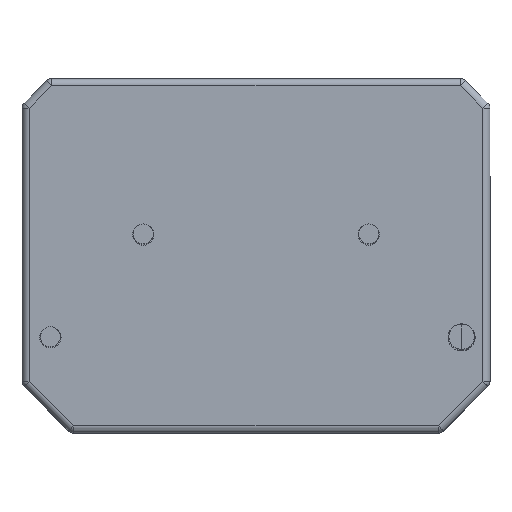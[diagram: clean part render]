
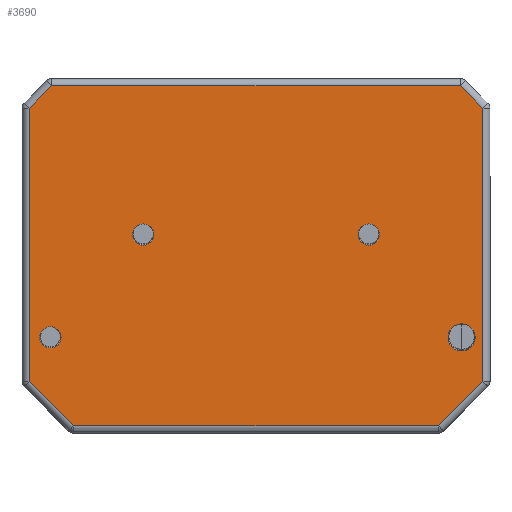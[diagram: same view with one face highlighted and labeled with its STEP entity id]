
A CAD part, top view. The second image highlights one B-rep face of the part: STEP entity #3690.
In plain terms, the highlighted planar face has unit normal (0, 0, 1).
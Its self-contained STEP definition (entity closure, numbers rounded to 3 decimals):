
#3 = VERTEX_POINT ( 'NONE', #4067 ) ;
#115 = CARTESIAN_POINT ( 'NONE',  ( -14.4, 26.8, 1. ) ) ;
#136 = FACE_OUTER_BOUND ( 'NONE', #297, .T. ) ;
#211 = DIRECTION ( 'NONE',  ( 0., 1., 0. ) ) ;
#213 = EDGE_CURVE ( 'NONE', #5137, #3, #2060, .T. ) ;
#297 = EDGE_LOOP ( 'NONE', ( #5254, #5443, #3378, #7904, #4692, #9486, #1400, #6706 ) ) ;
#351 = EDGE_CURVE ( 'NONE', #7415, #1528, #2502, .T. ) ;
#372 = LINE ( 'NONE', #5571, #5107 ) ;
#512 = CARTESIAN_POINT ( 'NONE',  ( 32., 6.076, 1. ) ) ;
#513 = EDGE_CURVE ( 'NONE', #7416, #11319, #3457, .T. ) ;
#564 = ORIENTED_EDGE ( 'NONE', *, *, #8007, .F. ) ;
#743 = DIRECTION ( 'NONE',  ( 1., 0., 0. ) ) ;
#805 = CIRCLE ( 'NONE', #11612, 1.5 ) ;
#829 = CARTESIAN_POINT ( 'NONE',  ( 0., 0., 1. ) ) ;
#950 = EDGE_CURVE ( 'NONE', #7591, #1123, #3882, .T. ) ;
#1123 = VERTEX_POINT ( 'NONE', #115 ) ;
#1200 = EDGE_CURVE ( 'NONE', #3, #8147, #8505, .T. ) ;
#1241 = CARTESIAN_POINT ( 'NONE',  ( -29.238, 47.8, 1. ) ) ;
#1400 = ORIENTED_EDGE ( 'NONE', *, *, #2907, .T. ) ;
#1528 = VERTEX_POINT ( 'NONE', #2818 ) ;
#1581 = CARTESIAN_POINT ( 'NONE',  ( 15.9, 26.8, 1. ) ) ;
#1661 = CARTESIAN_POINT ( 'NONE',  ( 28.824, 47.8, 1. ) ) ;
#1709 = EDGE_LOOP ( 'NONE', ( #10503, #7883 ) ) ;
#1888 = AXIS2_PLACEMENT_3D ( 'NONE', #9834, #4466, #10730 ) ;
#1908 = CARTESIAN_POINT ( 'NONE',  ( -32.293, 44.331, 1. ) ) ;
#1916 = CARTESIAN_POINT ( 'NONE',  ( -25.724, -0.2, 1. ) ) ;
#1942 = PLANE ( 'NONE',  #6334 ) ;
#1977 = EDGE_LOOP ( 'NONE', ( #9494, #4593 ) ) ;
#2020 = DIRECTION ( 'NONE',  ( 0., 0., 1. ) ) ;
#2024 = AXIS2_PLACEMENT_3D ( 'NONE', #9400, #2020, #9694 ) ;
#2060 = LINE ( 'NONE', #1241, #8652 ) ;
#2152 = DIRECTION ( 'NONE',  ( -0.707, 0.707, 0. ) ) ;
#2232 = FACE_BOUND ( 'NONE', #4429, .T. ) ;
#2410 = EDGE_CURVE ( 'NONE', #9934, #11513, #10951, .T. ) ;
#2483 = DIRECTION ( 'NONE',  ( 1., 0., 0. ) ) ;
#2502 = CIRCLE ( 'NONE', #4442, 1.9 ) ;
#2605 = CIRCLE ( 'NONE', #11264, 1.5 ) ;
#2803 = VERTEX_POINT ( 'NONE', #4053 ) ;
#2818 = CARTESIAN_POINT ( 'NONE',  ( 30.9, 12.3, 1. ) ) ;
#2850 = DIRECTION ( 'NONE',  ( -1., 0., 0. ) ) ;
#2907 = EDGE_CURVE ( 'NONE', #8147, #7416, #3232, .T. ) ;
#2995 = DIRECTION ( 'NONE',  ( 0., 0., 1. ) ) ;
#3061 = CARTESIAN_POINT ( 'NONE',  ( -27.5, 12.3, 1. ) ) ;
#3089 = CARTESIAN_POINT ( 'NONE',  ( 14.4, 26.8, 1. ) ) ;
#3171 = EDGE_LOOP ( 'NONE', ( #564, #6529 ) ) ;
#3175 = VECTOR ( 'NONE', #5128, 1000. ) ;
#3232 = LINE ( 'NONE', #9962, #10102 ) ;
#3378 = ORIENTED_EDGE ( 'NONE', *, *, #6146, .T. ) ;
#3433 = CARTESIAN_POINT ( 'NONE',  ( 29., 12.3, 1. ) ) ;
#3444 = DIRECTION ( 'NONE',  ( 1., 0., 0. ) ) ;
#3447 = VECTOR ( 'NONE', #3444, 1000. ) ;
#3457 = LINE ( 'NONE', #5661, #3175 ) ;
#3564 = CARTESIAN_POINT ( 'NONE',  ( 32.293, 6.369, 1. ) ) ;
#3579 = DIRECTION ( 'NONE',  ( 1., 0., 0. ) ) ;
#3690 = ADVANCED_FACE ( 'NONE', ( #9369, #6990, #4606, #2232, #136 ), #1942, .T. ) ;
#3699 = CIRCLE ( 'NONE', #4727, 1.9 ) ;
#3733 = VECTOR ( 'NONE', #2152, 1000. ) ;
#3742 = VECTOR ( 'NONE', #4004, 1000. ) ;
#3845 = CARTESIAN_POINT ( 'NONE',  ( -32., 44.624, 1. ) ) ;
#3854 = CARTESIAN_POINT ( 'NONE',  ( 17.4, 26.8, 1. ) ) ;
#3882 = CIRCLE ( 'NONE', #6229, 1.5 ) ;
#4004 = DIRECTION ( 'NONE',  ( -0.707, -0.707, 0. ) ) ;
#4006 = VERTEX_POINT ( 'NONE', #11041 ) ;
#4038 = DIRECTION ( 'NONE',  ( 0., 0., 1. ) ) ;
#4053 = CARTESIAN_POINT ( 'NONE',  ( -30.5, 12.3, 1. ) ) ;
#4067 = CARTESIAN_POINT ( 'NONE',  ( -28.824, 47.8, 1. ) ) ;
#4201 = DIRECTION ( 'NONE',  ( 1., 0., 0. ) ) ;
#4206 = CARTESIAN_POINT ( 'NONE',  ( -32., 6.076, 1. ) ) ;
#4216 = CARTESIAN_POINT ( 'NONE',  ( -17.4, 26.8, 1. ) ) ;
#4222 = ORIENTED_EDGE ( 'NONE', *, *, #351, .F. ) ;
#4429 = EDGE_LOOP ( 'NONE', ( #8416, #4222 ) ) ;
#4442 = AXIS2_PLACEMENT_3D ( 'NONE', #3433, #4038, #4201 ) ;
#4466 = DIRECTION ( 'NONE',  ( 0., 0., 1. ) ) ;
#4564 = DIRECTION ( 'NONE',  ( 0.707, 0.707, 0. ) ) ;
#4568 = DIRECTION ( 'NONE',  ( 1., 0., 0. ) ) ;
#4593 = ORIENTED_EDGE ( 'NONE', *, *, #6419, .F. ) ;
#4600 = CARTESIAN_POINT ( 'NONE',  ( 27.1, 12.3, 1. ) ) ;
#4606 = FACE_BOUND ( 'NONE', #1977, .T. ) ;
#4692 = ORIENTED_EDGE ( 'NONE', *, *, #213, .T. ) ;
#4693 = CIRCLE ( 'NONE', #1888, 1.5 ) ;
#4727 = AXIS2_PLACEMENT_3D ( 'NONE', #11430, #6081, #743 ) ;
#5071 = CIRCLE ( 'NONE', #2024, 1.5 ) ;
#5107 = VECTOR ( 'NONE', #211, 1000. ) ;
#5128 = DIRECTION ( 'NONE',  ( 0.707, -0.707, 0. ) ) ;
#5137 = VERTEX_POINT ( 'NONE', #1661 ) ;
#5143 = DIRECTION ( 'NONE',  ( 0., 0., 1. ) ) ;
#5254 = ORIENTED_EDGE ( 'NONE', *, *, #9131, .T. ) ;
#5443 = ORIENTED_EDGE ( 'NONE', *, *, #7900, .T. ) ;
#5486 = DIRECTION ( 'NONE',  ( 0., 0., 1. ) ) ;
#5571 = CARTESIAN_POINT ( 'NONE',  ( 32., 45.038, 1. ) ) ;
#5661 = CARTESIAN_POINT ( 'NONE',  ( -25.431, -0.493, 1. ) ) ;
#5836 = EDGE_CURVE ( 'NONE', #10170, #5137, #10603, .T. ) ;
#6081 = DIRECTION ( 'NONE',  ( 0., 0., 1. ) ) ;
#6146 = EDGE_CURVE ( 'NONE', #11581, #10170, #372, .T. ) ;
#6229 = AXIS2_PLACEMENT_3D ( 'NONE', #9208, #9158, #9267 ) ;
#6276 = VERTEX_POINT ( 'NONE', #3061 ) ;
#6334 = AXIS2_PLACEMENT_3D ( 'NONE', #829, #2995, #8748 ) ;
#6383 = DIRECTION ( 'NONE',  ( 0., -1., 0. ) ) ;
#6419 = EDGE_CURVE ( 'NONE', #11513, #9934, #805, .T. ) ;
#6529 = ORIENTED_EDGE ( 'NONE', *, *, #9179, .F. ) ;
#6706 = ORIENTED_EDGE ( 'NONE', *, *, #513, .T. ) ;
#6938 = EDGE_CURVE ( 'NONE', #1123, #7591, #2605, .T. ) ;
#6990 = FACE_BOUND ( 'NONE', #1709, .T. ) ;
#7415 = VERTEX_POINT ( 'NONE', #4600 ) ;
#7416 = VERTEX_POINT ( 'NONE', #4206 ) ;
#7591 = VERTEX_POINT ( 'NONE', #4216 ) ;
#7678 = LINE ( 'NONE', #9515, #3447 ) ;
#7875 = DIRECTION ( 'NONE',  ( 0., 0., 1. ) ) ;
#7883 = ORIENTED_EDGE ( 'NONE', *, *, #950, .F. ) ;
#7900 = EDGE_CURVE ( 'NONE', #4006, #11581, #8874, .T. ) ;
#7904 = ORIENTED_EDGE ( 'NONE', *, *, #5836, .T. ) ;
#8005 = CARTESIAN_POINT ( 'NONE',  ( 32., 44.624, 1. ) ) ;
#8007 = EDGE_CURVE ( 'NONE', #6276, #2803, #5071, .T. ) ;
#8147 = VERTEX_POINT ( 'NONE', #3845 ) ;
#8416 = ORIENTED_EDGE ( 'NONE', *, *, #10566, .F. ) ;
#8505 = LINE ( 'NONE', #1908, #3742 ) ;
#8652 = VECTOR ( 'NONE', #2850, 1000. ) ;
#8748 = DIRECTION ( 'NONE',  ( 1., 0., 0. ) ) ;
#8874 = LINE ( 'NONE', #3564, #10699 ) ;
#8935 = AXIS2_PLACEMENT_3D ( 'NONE', #10843, #5486, #4568 ) ;
#9131 = EDGE_CURVE ( 'NONE', #11319, #4006, #7678, .T. ) ;
#9158 = DIRECTION ( 'NONE',  ( 0., 0., 1. ) ) ;
#9179 = EDGE_CURVE ( 'NONE', #2803, #6276, #4693, .T. ) ;
#9208 = CARTESIAN_POINT ( 'NONE',  ( -15.9, 26.8, 1. ) ) ;
#9267 = DIRECTION ( 'NONE',  ( 1., 0., 0. ) ) ;
#9369 = FACE_BOUND ( 'NONE', #3171, .T. ) ;
#9400 = CARTESIAN_POINT ( 'NONE',  ( -29., 12.3, 1. ) ) ;
#9486 = ORIENTED_EDGE ( 'NONE', *, *, #1200, .T. ) ;
#9494 = ORIENTED_EDGE ( 'NONE', *, *, #2410, .F. ) ;
#9515 = CARTESIAN_POINT ( 'NONE',  ( 26.138, -0.2, 1. ) ) ;
#9694 = DIRECTION ( 'NONE',  ( 1., 0., 0. ) ) ;
#9834 = CARTESIAN_POINT ( 'NONE',  ( -29., 12.3, 1. ) ) ;
#9934 = VERTEX_POINT ( 'NONE', #3854 ) ;
#9962 = CARTESIAN_POINT ( 'NONE',  ( -32., 5.662, 1. ) ) ;
#10102 = VECTOR ( 'NONE', #6383, 1000. ) ;
#10170 = VERTEX_POINT ( 'NONE', #8005 ) ;
#10490 = CARTESIAN_POINT ( 'NONE',  ( -15.9, 26.8, 1. ) ) ;
#10503 = ORIENTED_EDGE ( 'NONE', *, *, #6938, .F. ) ;
#10566 = EDGE_CURVE ( 'NONE', #1528, #7415, #3699, .T. ) ;
#10603 = LINE ( 'NONE', #11323, #3733 ) ;
#10699 = VECTOR ( 'NONE', #4564, 1000. ) ;
#10730 = DIRECTION ( 'NONE',  ( 1., 0., 0. ) ) ;
#10843 = CARTESIAN_POINT ( 'NONE',  ( 15.9, 26.8, 1. ) ) ;
#10951 = CIRCLE ( 'NONE', #8935, 1.5 ) ;
#11041 = CARTESIAN_POINT ( 'NONE',  ( 25.724, -0.2, 1. ) ) ;
#11264 = AXIS2_PLACEMENT_3D ( 'NONE', #10490, #5143, #3579 ) ;
#11319 = VERTEX_POINT ( 'NONE', #1916 ) ;
#11323 = CARTESIAN_POINT ( 'NONE',  ( 28.531, 48.093, 1. ) ) ;
#11430 = CARTESIAN_POINT ( 'NONE',  ( 29., 12.3, 1. ) ) ;
#11513 = VERTEX_POINT ( 'NONE', #3089 ) ;
#11581 = VERTEX_POINT ( 'NONE', #512 ) ;
#11612 = AXIS2_PLACEMENT_3D ( 'NONE', #1581, #7875, #2483 ) ;
